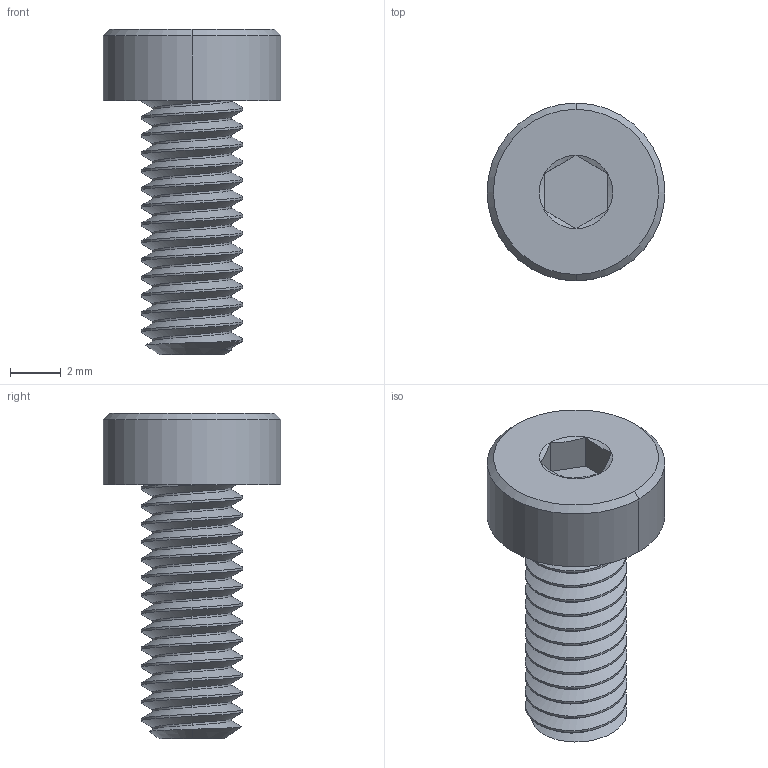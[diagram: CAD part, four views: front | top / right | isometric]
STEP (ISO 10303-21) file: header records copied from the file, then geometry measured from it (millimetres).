
FILE_DESCRIPTION (( 'STEP AP203' ), '1' );
FILE_NAME ('2804-0004-0010.STEP', '2017-04-05T21:28:15', ( '' ), ( '' ), 'SwSTEP 2.0', 'SolidWorks 2016', '' );
FILE_SCHEMA (( 'CONFIG_CONTROL_DESIGN' ));
Length unit declared in the file: inch
Products named in the file (1): 2804-0004-0010
Bounding box: 7 x 7 x 12.8 mm (x, y, z)
Volume: 198 mm3; surface area: 336.4 mm2
Topology: 1 solids, 1 shells, 83 faces, 222 edges, 143 vertices
Faces by surface type: cylinder 61, cone 10, plane 10, bspline 2
Entity records: 7468 total; most frequent: CARTESIAN_POINT 5676, ORIENTED_EDGE 444, DIRECTION 281, EDGE_CURVE 222, VERTEX_POINT 143, AXIS2_PLACEMENT_3D 103, EDGE_LOOP 85, FACE_OUTER_BOUND 83
